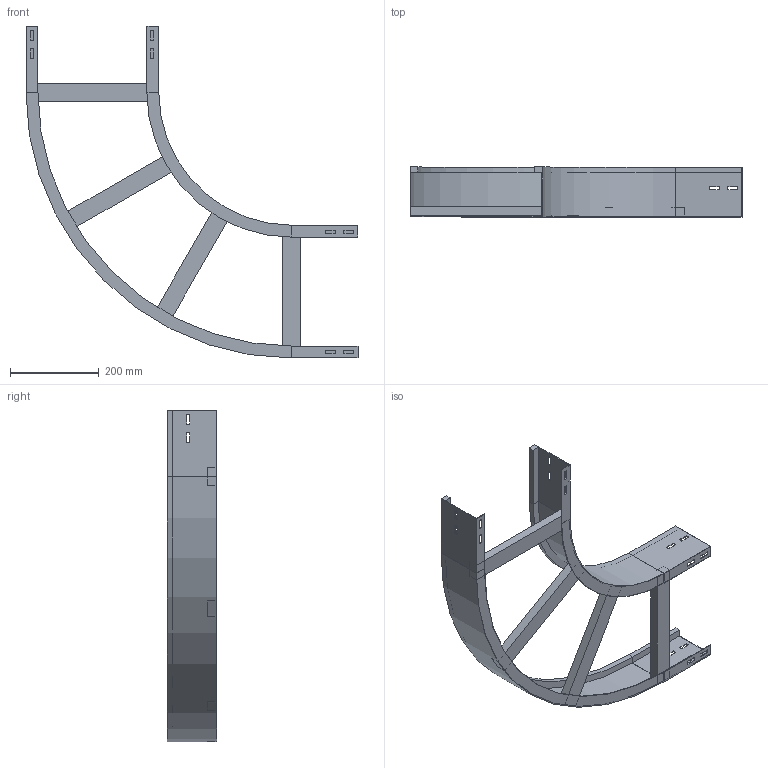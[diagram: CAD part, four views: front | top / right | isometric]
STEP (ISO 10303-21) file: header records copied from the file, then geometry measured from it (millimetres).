
FILE_DESCRIPTION (( 'STEP AP214' ), '1' );
FILE_NAME ('A2_10B3J300.step', '2025-02-21T15:24:35', ( '' ), ( '' ), 'SwSTEP 2.0', 'SolidWorks 2023', '' );
FILE_SCHEMA (( 'AUTOMOTIVE_DESIGN' ));
Length unit declared in the file: millimetre
Products named in the file (4): TRAVERSINO_300; A2_10B3J300; A2_LONGH.INTERNO 90°_H112.5_R300; A2_LONGH.ESTERNO 90°_H112.5_R300+300
Assembly tree (6 placements, depth 2):
  A2_10B3J300
    A2_LONGH.INTERNO 90°_H112.5_R300
    A2_LONGH.ESTERNO 90°_H112.5_R300+300
    TRAVERSINO_300  x4
Bounding box: 750 x 112.5 x 750 mm (x, y, z)
Volume: 1894517.7 mm3; surface area: 774805.9 mm2
Topology: 6 solids, 6 shells, 140 faces, 352 edges, 224 vertices
Faces by surface type: plane 132, cylinder 8
Entity records: 3829 total; most frequent: CARTESIAN_POINT 647, ORIENTED_EDGE 632, DIRECTION 594, EDGE_CURVE 316, VECTOR 300, LINE 300, VERTEX_POINT 200, EDGE_LOOP 154
